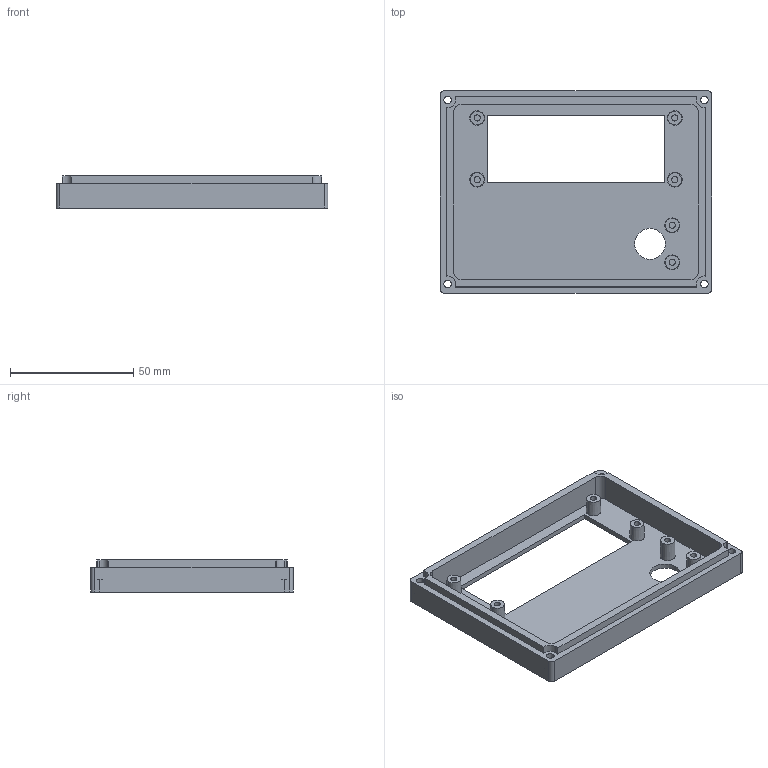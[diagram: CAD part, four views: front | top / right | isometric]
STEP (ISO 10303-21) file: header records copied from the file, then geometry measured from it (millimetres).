
FILE_DESCRIPTION (( 'STEP AP214' ), '1' );
FILE_NAME ('階裔.STEP', '2017-08-07T03:16:16', ( '' ), ( '' ), 'SwSTEP 2.0', 'SolidWorks 2016', '' );
FILE_SCHEMA (( 'AUTOMOTIVE_DESIGN' ));
Length unit declared in the file: millimetre
Products named in the file (1): 階裔
Bounding box: 110 x 82 x 13 mm (x, y, z)
Volume: 33028 mm3; surface area: 24749.2 mm2
Topology: 1 solids, 1 shells, 293 faces, 771 edges, 514 vertices
Faces by surface type: plane 151, bspline 78, cylinder 52, cone 12
Entity records: 9499 total; most frequent: CARTESIAN_POINT 2593, ORIENTED_EDGE 1542, DIRECTION 1175, EDGE_CURVE 771, VERTEX_POINT 514, VECTOR 487, LINE 487, AXIS2_PLACEMENT_3D 344
